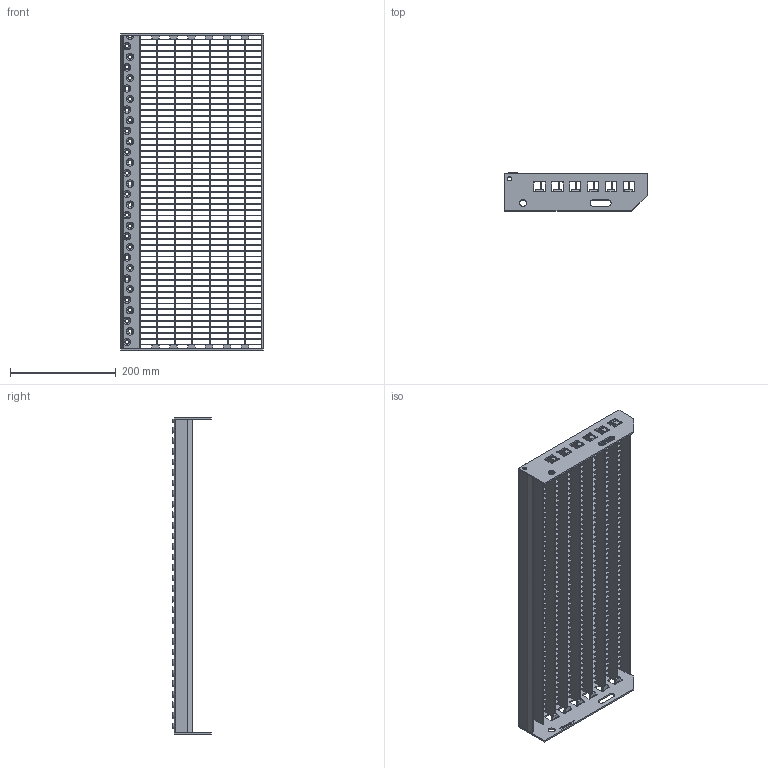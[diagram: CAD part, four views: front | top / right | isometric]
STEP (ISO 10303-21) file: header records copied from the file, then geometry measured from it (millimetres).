
FILE_DESCRIPTION(/* description */ ('','CAx-IF Rec.Pracs.---Representation and Presentation of Product Manufacturing Information (PMI)---3.8---2014-02-18'),/* implementation_level */ '2;1');
FILE_NAME(/* name */ 'C:\Users\phaverkotte\Desktop\Lager STEP\P-Stufen\P 230-33 11-2\P 230-33 11-2 600mm x 270mm.stp',/* time_stamp */ '2018-03-24T11:18:43+01:00',/* author */ ('phaverkotte'),/* organization */ (''),/* preprocessor_version */ 'ST-DEVELOPER v16.13',/* originating_system */ 'Autodesk Inventor 2018',/* authorisation */ '');
FILE_SCHEMA (('AP242_MANAGED_MODEL_BASED_3D_ENGINEERING_MIM_LF { 1 0 10303 442 1 1 4 }'));
Length unit declared in the file: millimetre
Products named in the file (8): Schodišťový stupeň přím
ý lisovaný; Seitenplatte ausgeklinkt links; Seitenplatte 240 ausgeklinkt extern rechts; Schod nášlap; P Rošt schodu; Querstab; P Nosný pás; Hinteres Flach
Assembly tree (65 placements, depth 3):
  Schodišťový stupeň přím
ý lisovaný
    Seitenplatte ausgeklinkt links
    Seitenplatte 240 ausgeklinkt extern rechts
    Schod nášlap
    P Rošt schodu
      Querstab  x53
      P Nosný pás  x7
      Hinteres Flach
Bounding box: 270.31 x 72.75 x 600 mm (x, y, z)
Volume: 655981.5 mm3; surface area: 728901.6 mm2
Topology: 64 solids, 64 shells, 2436 faces, 6773 edges, 4482 vertices
Faces by surface type: plane 2160, cylinder 132, cone 90, torus 30, bspline 24
Full cylindrical faces by diameter (mm): 8 x2, 13 x2
Entity records: 29825 total; most frequent: CARTESIAN_POINT 8630, DIRECTION 4174, ORIENTED_EDGE 4164, EDGE_CURVE 2082, LINE 1612, VECTOR 1612, VERTEX_POINT 1415, AXIS2_PLACEMENT_3D 1281
